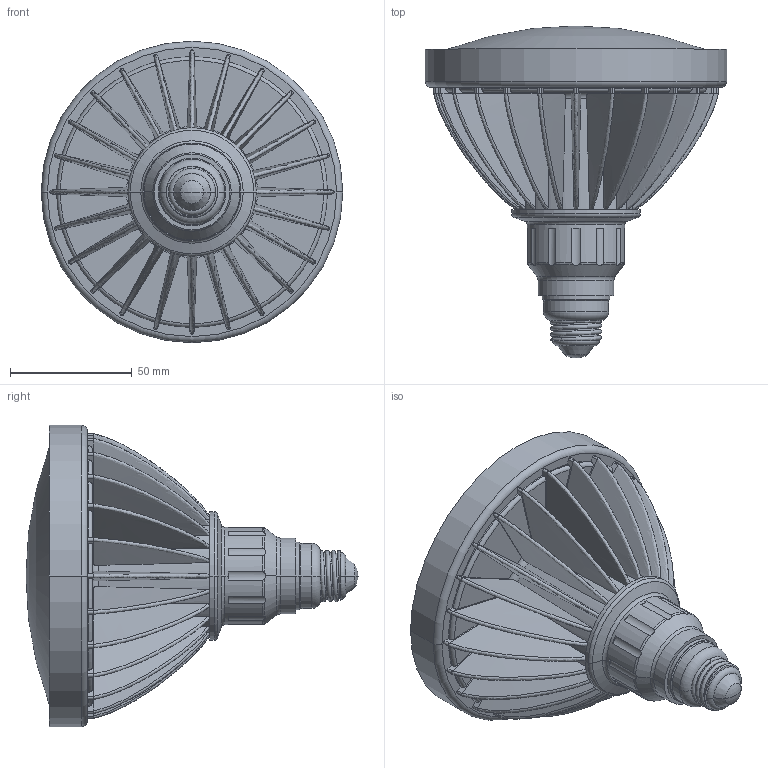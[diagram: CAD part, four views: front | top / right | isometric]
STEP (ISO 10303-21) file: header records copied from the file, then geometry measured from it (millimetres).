
FILE_DESCRIPTION (( 'STEP AP214' ), '1' );
FILE_NAME ('LED30W-PAR38-WP.STEP', '2016-01-28T22:33:21', ( '' ), ( '' ), 'SwSTEP 2.0', 'SolidWorks 2016', '' );
FILE_SCHEMA (( 'AUTOMOTIVE_DESIGN' ));
Length unit declared in the file: inch
Products named in the file (1): LED30W-PAR38-WP
Bounding box: 123.95 x 136.53 x 123.95 mm (x, y, z)
Volume: 448613.4 mm3; surface area: 94212.1 mm2
Topology: 1 solids, 15 shells, 459 faces, 1200 edges, 774 vertices
Faces by surface type: cylinder 166, plane 152, torus 74, bspline 53, cone 11, sphere 3
Entity records: 23432 total; most frequent: CARTESIAN_POINT 11775, ORIENTED_EDGE 2398, DIRECTION 2077, EDGE_CURVE 1199, AXIS2_PLACEMENT_3D 833, VERTEX_POINT 774, EDGE_LOOP 471, FACE_OUTER_BOUND 459
